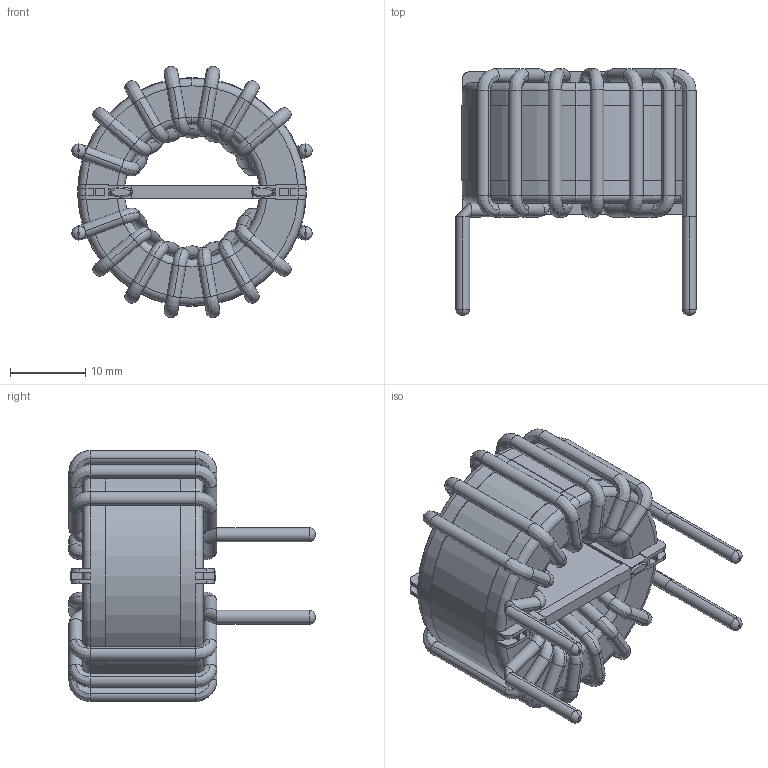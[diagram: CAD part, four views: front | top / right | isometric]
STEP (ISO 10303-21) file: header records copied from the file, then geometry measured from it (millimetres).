
FILE_DESCRIPTION (( 'STEP AP203' ), '1' );
FILE_NAME ('HN-H-302U-20A.STEP', '2020-07-09T10:22:33', ( 'Windows User' ), ( '' ), 'SwSTEP 2.0', 'SolidWorks 2015', '' );
FILE_SCHEMA (( 'CONFIG_CONTROL_DESIGN' ));
Length unit declared in the file: inch
Products named in the file (4): HN-H-302U-20A - FRAME; HN-H-302U-20A - CORE; HN-H-302U-20A - COIL; HN-H-302U-20A
Assembly tree (3 placements, depth 2):
  HN-H-302U-20A
    HN-H-302U-20A - CORE
    HN-H-302U-20A - COIL
    HN-H-302U-20A - FRAME
Bounding box: 32 x 32.79 x 33.45 mm (x, y, z)
Volume: 9865.2 mm3; surface area: 10680.8 mm2
Topology: 13 solids, 13 shells, 473 faces, 1275 edges, 826 vertices
Faces by surface type: cylinder 159, plane 132, torus 94, bspline 88
Entity records: 21139 total; most frequent: CARTESIAN_POINT 9208, ORIENTED_EDGE 2542, DIRECTION 2385, EDGE_CURVE 1271, AXIS2_PLACEMENT_3D 951, VERTEX_POINT 826, CIRCLE 560, LINE 483
